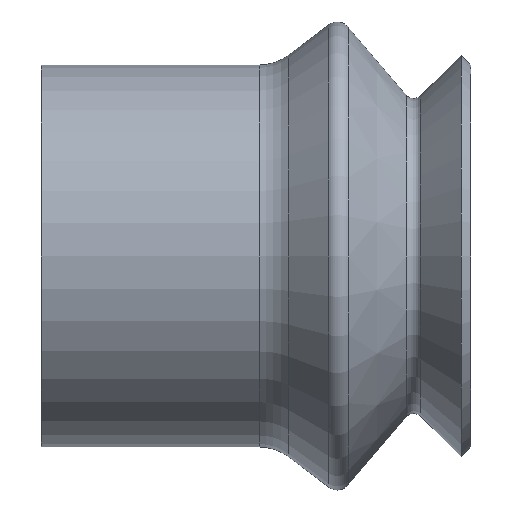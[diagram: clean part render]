
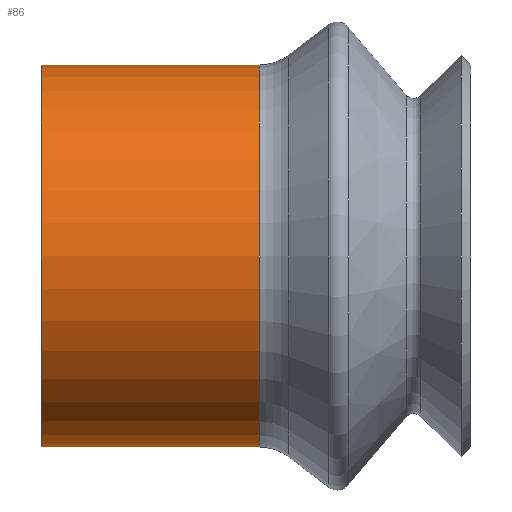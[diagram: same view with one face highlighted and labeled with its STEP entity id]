
A CAD part, left-side view. The second image highlights one B-rep face of the part: STEP entity #86.
In plain terms, the highlighted cylindrical face has radius 4 mm (diameter 8 mm), a full revolution.
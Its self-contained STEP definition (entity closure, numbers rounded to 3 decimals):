
#86=ADVANCED_FACE('',(#125,#126),#127,.T.);
#125=FACE_OUTER_BOUND('',#173,.T.);
#126=FACE_OUTER_BOUND('',#174,.T.);
#127=CYLINDRICAL_SURFACE('',#175,4.0);
#173=EDGE_LOOP('',(#243));
#174=EDGE_LOOP('',(#244));
#175=AXIS2_PLACEMENT_3D('',#245,#246,#247);
#243=ORIENTED_EDGE('',*,*,#268,.T.);
#244=ORIENTED_EDGE('',*,*,#282,.T.);
#245=CARTESIAN_POINT('',(0.0,0.0,0.0));
#246=DIRECTION('',(0.0,-1.0,0.));
#247=DIRECTION('',(0.0,0.,-1.0));
#268=EDGE_CURVE('',#284,#284,#285,.F.);
#282=EDGE_CURVE('',#312,#312,#313,.T.);
#284=VERTEX_POINT('',#316);
#285=CIRCLE('',#317,4.0);
#312=VERTEX_POINT('',#344);
#313=CIRCLE('',#345,4.0);
#316=CARTESIAN_POINT('',(0.0,11.39,-4.0));
#317=AXIS2_PLACEMENT_3D('',#348,#349,#350);
#344=CARTESIAN_POINT('',(4.0,15.96,0.));
#345=AXIS2_PLACEMENT_3D('',#390,#391,#392);
#348=CARTESIAN_POINT('',(0.0,11.39,0.));
#349=DIRECTION('',(0.0,-1.0,0.));
#350=DIRECTION('',(0.0,0.,-1.0));
#390=CARTESIAN_POINT('',(0.0,15.96,0.));
#391=DIRECTION('',(0.0,-1.0,0.));
#392=DIRECTION('',(0.0,0.,-1.0));
